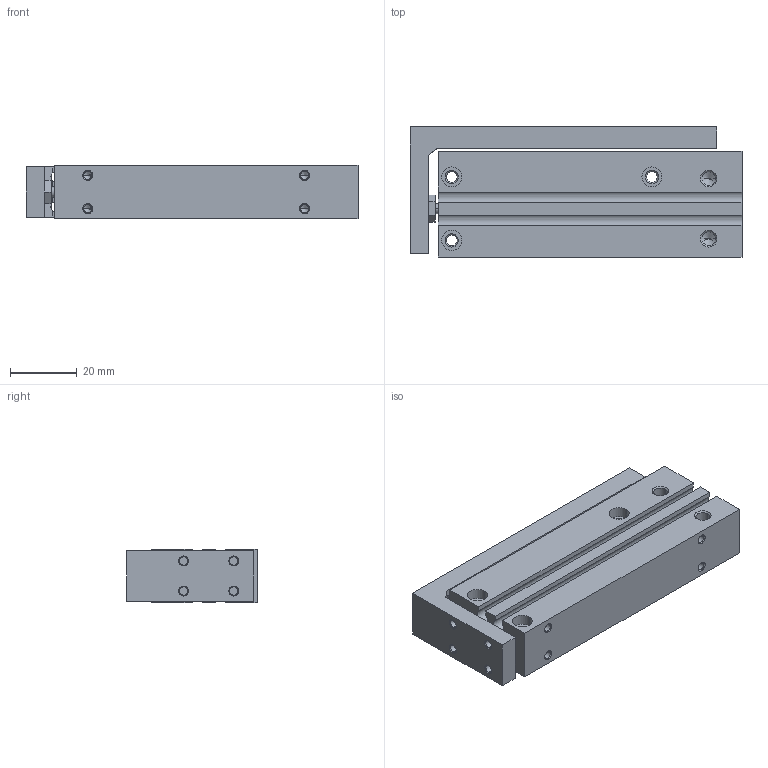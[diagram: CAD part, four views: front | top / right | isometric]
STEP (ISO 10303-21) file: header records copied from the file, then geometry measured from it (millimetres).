
FILE_DESCRIPTION (( 'STEP AP203' ), '1' );
FILE_NAME ('CXH6-60.STEP', '2020-04-16T18:04:04', ( '' ), ( '' ), 'SwSTEP 2.0', 'SolidWorks 2019', '' );
FILE_SCHEMA (( 'CONFIG_CONTROL_DESIGN' ));
Length unit declared in the file: millimetre
Products named in the file (1): CXH6-60
Bounding box: 99.5 x 39 x 16 mm (x, y, z)
Volume: 48611.7 mm3; surface area: 22669.3 mm2
Topology: 2 solids, 2 shells, 216 faces, 515 edges, 298 vertices
Faces by surface type: cone 92, cylinder 80, plane 44
Entity records: 6252 total; most frequent: DIRECTION 1141, CARTESIAN_POINT 1120, ORIENTED_EDGE 974, EDGE_CURVE 487, AXIS2_PLACEMENT_3D 441, VERTEX_POINT 298, EDGE_LOOP 265, LINE 259
